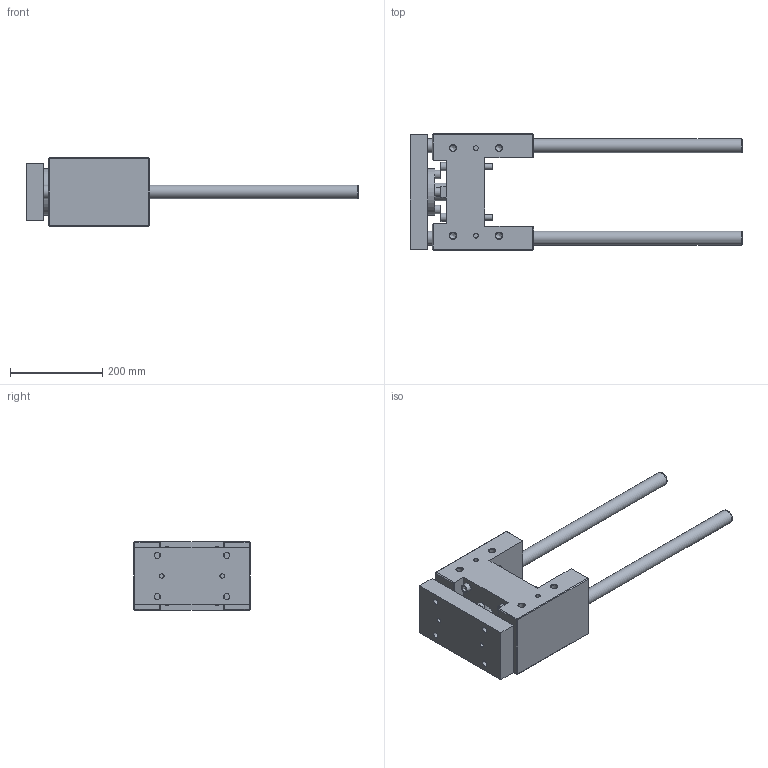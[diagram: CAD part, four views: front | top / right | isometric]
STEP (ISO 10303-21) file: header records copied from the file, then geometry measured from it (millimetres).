
FILE_DESCRIPTION( ( 'STEP AP214' ), '1' );
FILE_NAME( 'U:/Etudes/Top Solid/BIBLIO 3D AVM/TOP/PNEUMATIQUE/GUIDAGES/Type 32 (en H)/R_Renforcée/320R7_30.step', '2005-05-27T08:41:59', ( ' ' ), ( ' ' ), 'XStep 1.0', ' ', ' ' );
FILE_SCHEMA( ( 'automotive_design' ) );
Length unit declared in the file: metre
Products named in the file (2): 1; 2
Bounding box: 720 x 252 x 148 mm (x, y, z)
Volume: 6911332.1 mm3; surface area: 592530.4 mm2
Topology: 2 solids, 7 shells, 238 faces, 524 edges, 339 vertices
Faces by surface type: plane 149, cylinder 68, cone 21
Full cylindrical faces by diameter (mm): 10 x4, 10.106 x4, 12 x16, 13 x12, 13.835 x8, 18 x8, 20 x4, 24.835 x1, 30 x4, 39 x1, 42 x1, 57 x1, 60 x2, 65 x1, 100 x1
Entity records: 7905 total; most frequent: CARTESIAN_POINT 1198, DIRECTION 996, ORIENTED_EDGE 784, EDGE_CURVE 392, EDGE_LOOP 390, AXIS2_PLACEMENT_3D 372, FACE_OUTER_BOUND 306, VERTEX_POINT 302
